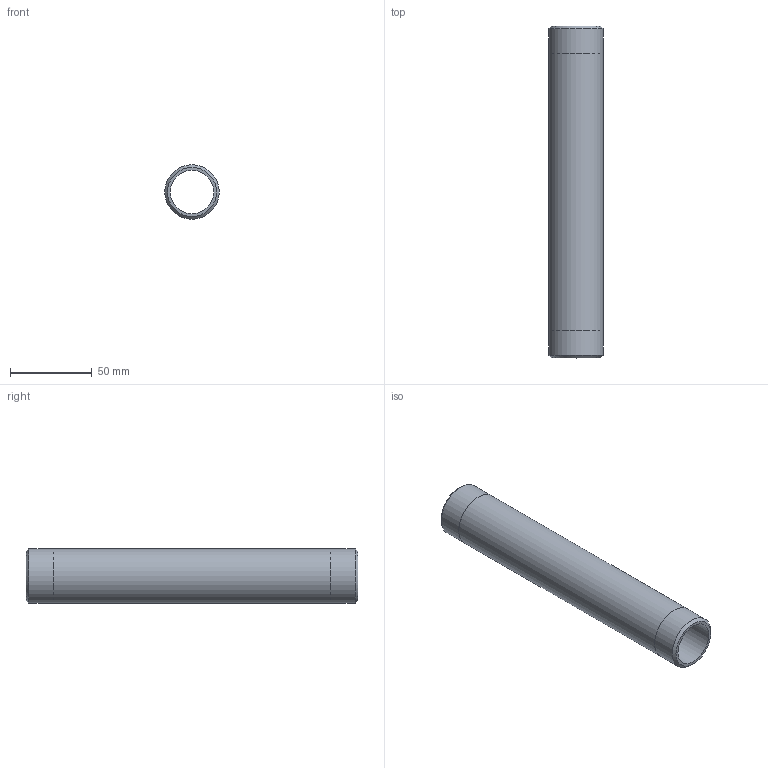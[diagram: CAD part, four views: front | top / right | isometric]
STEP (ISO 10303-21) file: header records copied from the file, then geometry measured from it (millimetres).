
FILE_DESCRIPTION(/* description */ (''),/* implementation_level */ '2;1');
FILE_NAME(/* name */ 'C:/Users/drich/Desktop/SSPN1-8 v1.step',/* time_stamp */ '2020-01-03T16:30:29-06:00',/* author */ (''),/* organization */ (''),/* preprocessor_version */ 'ST-DEVELOPER v18',/* originating_system */ 'Autodesk Translation Framework v8.12.0.6',/* authorisation */ '');
FILE_SCHEMA (('AUTOMOTIVE_DESIGN { 1 0 10303 214 3 1 1 }'));
Length unit declared in the file: inch
Products named in the file (1): SSPN1-8
Bounding box: 33.4 x 203.2 x 33.4 mm (x, y, z)
Volume: 64380 mm3; surface area: 38753.6 mm2
Topology: 1 solids, 1 shells, 10 faces, 24 edges, 18 vertices
Faces by surface type: cylinder 4, plane 4, cone 2
Full cylindrical faces by diameter (mm): 26.645 x1, 33.35 x2, 33.401 x1
Entity records: 353 total; most frequent: DIRECTION 64, CARTESIAN_POINT 53, ORIENTED_EDGE 48, AXIS2_PLACEMENT_3D 29, EDGE_CURVE 24, CIRCLE 18, VERTEX_POINT 18, EDGE_LOOP 14
